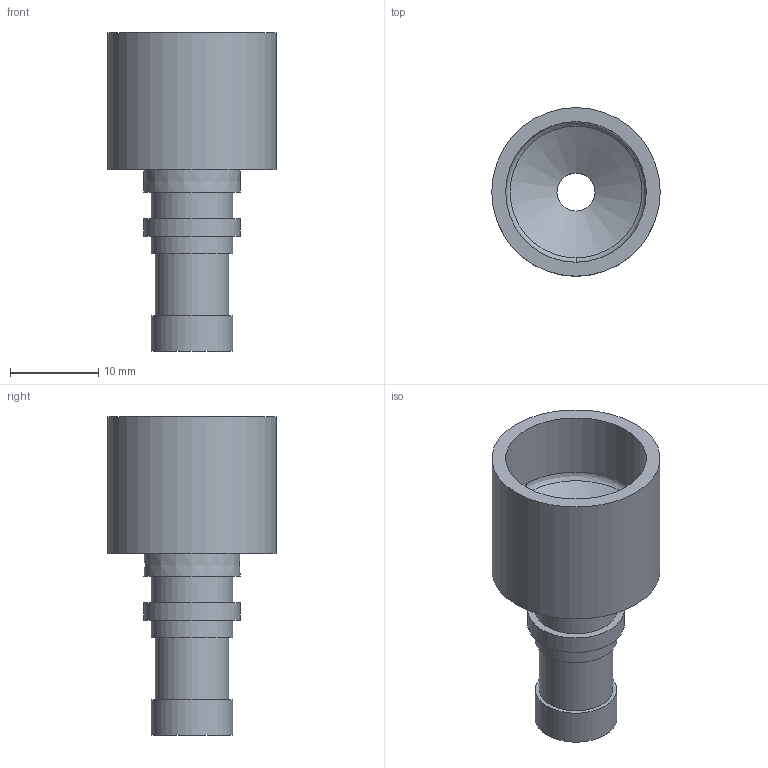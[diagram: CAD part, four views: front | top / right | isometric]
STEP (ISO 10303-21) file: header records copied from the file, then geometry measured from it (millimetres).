
FILE_DESCRIPTION (( 'STEP AP203' ), '1' );
FILE_NAME ('70-6.3R19.05-PH.STEP', '2013-09-19T10:54:25', ( '' ), ( '' ), 'SwSTEP 2.0', 'SolidWorks 2012', '' );
FILE_SCHEMA (( 'CONFIG_CONTROL_DESIGN' ));
Length unit declared in the file: millimetre
Products named in the file (1): 70-6.3R19.05-PH
Bounding box: 19.05 x 19.05 x 36 mm (x, y, z)
Volume: 3456.2 mm3; surface area: 2945 mm2
Topology: 1 solids, 1 shells, 22 faces, 38 edges, 25 vertices
Faces by surface type: cylinder 9, plane 9, cone 2, bspline 2
Full cylindrical faces by diameter (mm): 4.3 x1, 6.3 x1, 8.3 x1, 9.25 x3, 10.9 x1, 15.9 x1, 19.05 x1
Entity records: 567 total; most frequent: CARTESIAN_POINT 107, DIRECTION 88, ORIENTED_EDGE 50, AXIS2_PLACEMENT_3D 44, EDGE_LOOP 42, FACE_OUTER_BOUND 31, EDGE_CURVE 25, VERTEX_POINT 23
